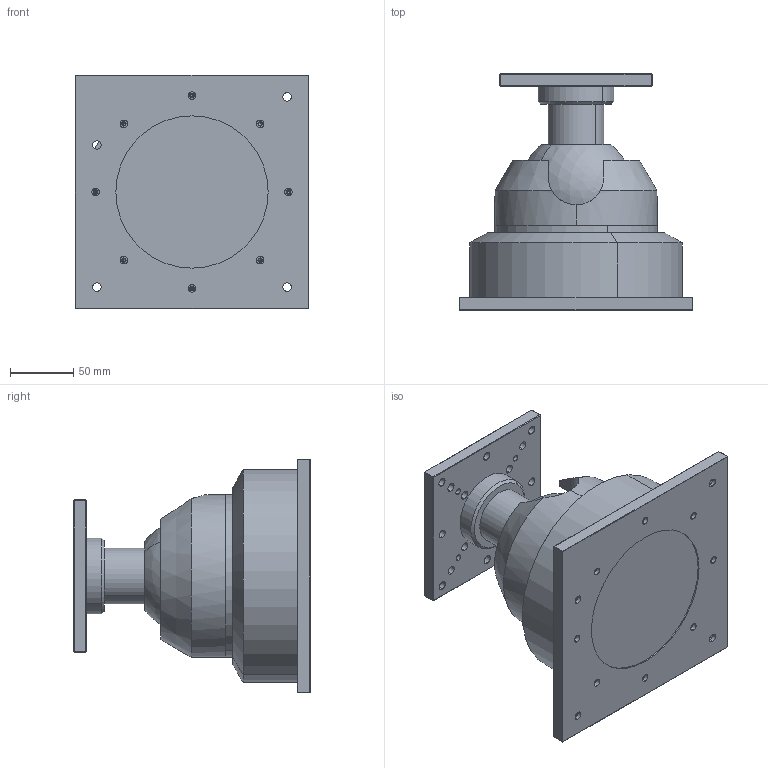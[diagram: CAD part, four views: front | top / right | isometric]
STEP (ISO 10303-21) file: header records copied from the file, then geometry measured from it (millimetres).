
FILE_DESCRIPTION (( 'STEP AP203' ), '1' );
FILE_NAME ('PRSD120X120怢醱蚾饜芞.STEP', '2021-07-24T04:23:00', ( '' ), ( '' ), 'SwSTEP 2.0', 'SolidWorks 2017', '' );
FILE_SCHEMA (( 'CONFIG_CONTROL_DESIGN' ));
Length unit declared in the file: millimetre
Products named in the file (10): 185X185菁釱; 120X120怢醱; 俋遠 - 萵掛; 郯攝菜 - 萵掛; 球 - 副本; 锁紧圈 - 副本; ⑩盓傅 - 萵掛; 怢醱盓傅殤 - 萵掛; 囀遠 - 萵掛; PRSD120X120怢醱蚾饜芞
Assembly tree (10 placements, depth 2):
  PRSD120X120怢醱蚾饜芞
    185X185菁釱
    俋遠 - 萵掛
    囀遠 - 萵掛
    郯攝菜 - 萵掛
    怢醱盓傅殤 - 萵掛
    锁紧圈 - 副本  x2
    球 - 副本
    ⑩盓傅 - 萵掛
    120X120怢醱
Bounding box: 184 x 186.44 x 184 mm (x, y, z)
Volume: 1878265.5 mm3; surface area: 329647.7 mm2
Topology: 10 solids, 10 shells, 341 faces, 798 edges, 486 vertices
Faces by surface type: cylinder 199, plane 100, cone 40, sphere 2
Entity records: 10903 total; most frequent: CARTESIAN_POINT 1840, DIRECTION 1823, ORIENTED_EDGE 1494, EDGE_CURVE 747, AXIS2_PLACEMENT_3D 742, VERTEX_POINT 475, EDGE_LOOP 470, CIRCLE 394
